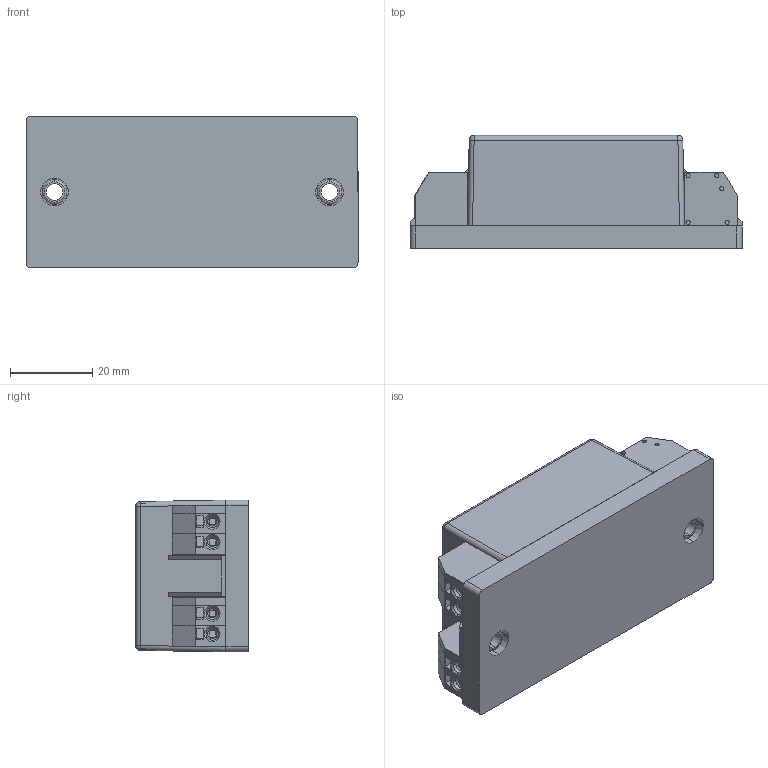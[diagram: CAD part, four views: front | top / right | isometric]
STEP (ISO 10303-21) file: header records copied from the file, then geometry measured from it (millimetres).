
FILE_DESCRIPTION (( 'STEP AP214' ), '1' );
FILE_NAME ('D-UW4.STEP', '2015-08-26T09:52:22', ( '' ), ( '' ), 'SwSTEP 2.0', 'SolidWorks 2015', '' );
FILE_SCHEMA (( 'AUTOMOTIVE_DESIGN' ));
Length unit declared in the file: millimetre
Products named in the file (5): D-UW4; Aufkleber-48x33-UW4; Oberteil; Dummy-UW4; Unterteil
Assembly tree (4 placements, depth 2):
  D-UW4
    Unterteil
    Dummy-UW4
    Oberteil
    Aufkleber-48x33-UW4
Bounding box: 80.9 x 27.7 x 37 mm (x, y, z)
Volume: 19125.5 mm3; surface area: 41584.1 mm2
Topology: 34 solids, 34 shells, 1312 faces, 3388 edges, 2224 vertices
Faces by surface type: plane 848, cylinder 360, cone 92, torus 8, sphere 4
Entity records: 53474 total; most frequent: CARTESIAN_POINT 7239, DIRECTION 6826, ORIENTED_EDGE 6768, EDGE_CURVE 3384, VECTOR 2380, LINE 2380, VERTEX_POINT 2224, AXIS2_PLACEMENT_3D 2223
